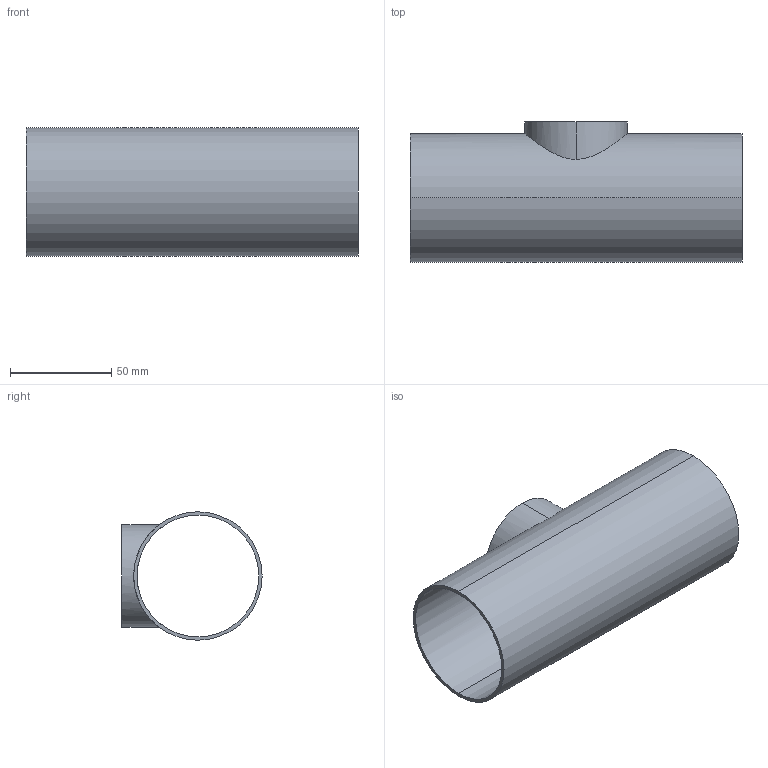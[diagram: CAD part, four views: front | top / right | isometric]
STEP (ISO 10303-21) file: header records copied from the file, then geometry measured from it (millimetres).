
FILE_DESCRIPTION (( 'STEP AP214' ), '1' );
FILE_NAME ('TEG7RS6L2.5x2.0-...STEP', '2016-05-24T10:43:01', ( 'eran' ), ( '' ), 'SwSTEP 2.0', 'SolidWorks 2016', '' );
FILE_SCHEMA (( 'AUTOMOTIVE_DESIGN' ));
Length unit declared in the file: millimetre
Products named in the file (1): TEG7RS6L2.5x2.0-..
Bounding box: 164.2 x 69.35 x 63.5 mm (x, y, z)
Volume: 52323.9 mm3; surface area: 64313.6 mm2
Topology: 1 solids, 1 shells, 11 faces, 24 edges, 16 vertices
Faces by surface type: cylinder 8, plane 3
Entity records: 606 total; most frequent: CARTESIAN_POINT 314, DIRECTION 56, ORIENTED_EDGE 48, AXIS2_PLACEMENT_3D 24, EDGE_CURVE 24, EDGE_LOOP 16, VERTEX_POINT 16, CIRCLE 12
